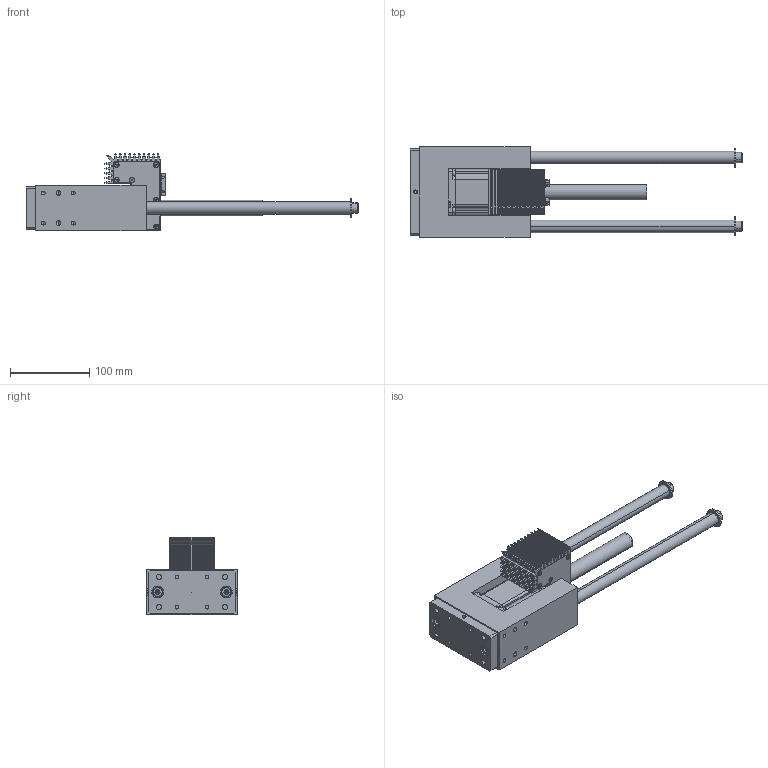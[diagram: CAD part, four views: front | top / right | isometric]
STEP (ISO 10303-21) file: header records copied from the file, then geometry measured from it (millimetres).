
FILE_DESCRIPTION (( 'STEP AP214' ), '1' );
FILE_NAME ('FE23_0004_V00_HUB-250.stp', '2022-03-11T10:46:50', ( '' ), ( '' ), 'SwSTEP 2.0', 'SolidWorks 2020', '' );
FILE_SCHEMA (( 'AUTOMOTIVE_DESIGN' ));
Length unit declared in the file: millimetre
Products named in the file (22): socket head cap screw_din_DIN 912 M4 x 16 --- 16N; WISKA_EVSG_12_7035_10060624; INA-FAG_KH16-PP; FE00_0004_V00; socket set screw cone point_din_DIN 914 - M4 x 5-N; socket thin pilot cap screw_din_DIN 6912 - M8 x 20 --- 13N; spring pin slotted_hd_din_DIN EN 28752 - 2.5 x 16 - St; socket head cap screw_din_DIN 912 M8 x 16 --- 16N; socket set screw cone point_din_DIN 914 - M6 x 12-N; FE23_0004_V00_HUB-250; parallel pin hardened_din_DIN EN 28734 - 3 x 12 - A - St; FE00_0006_V00; FE00_0008_V00_L-130; FE00_0005_V00; Kollmorgen_NEMA23_CTP22NSF3INSS02_mit Gewinde; plain washer large_din_Washer DIN 9021 - 8.4; FE00_0002_V00_HUB-250; FE00_0003_V00_HUB-250; INA_Axial-Rillenkugellager-51104_31_104; FE00_0001_V00; C300_axial_SubD_Ohne Verschlusskappe; FE23_0001_V00_HUB-250
Assembly tree (35 placements, depth 3):
  FE23_0004_V00_HUB-250
    FE23_0001_V00_HUB-250
      FE00_0002_V00_HUB-250
      FE00_0003_V00_HUB-250  x2
      FE00_0001_V00
      FE00_0004_V00
      FE00_0005_V00
      FE00_0006_V00
      INA-FAG_KH16-PP  x4
      socket thin pilot cap screw_din_DIN 6912 - M8 x 20 --- 13N  x2
      INA_Axial-Rillenkugellager-51104_31_104  x2
      parallel pin hardened_din_DIN EN 28734 - 3 x 12 - A - St  x3
      socket set screw cone point_din_DIN 914 - M4 x 5-N
      spring pin slotted_hd_din_DIN EN 28752 - 2.5 x 16 - St
      socket set screw cone point_din_DIN 914 - M6 x 12-N  x2
      plain washer large_din_Washer DIN 9021 - 8.4  x2
      socket head cap screw_din_DIN 912 M8 x 16 --- 16N  x2
    Kollmorgen_NEMA23_CTP22NSF3INSS02_mit Gewinde
    C300_axial_SubD_Ohne Verschlusskappe
    FE00_0008_V00_L-130
    WISKA_EVSG_12_7035_10060624
    socket head cap screw_din_DIN 912 M4 x 16 --- 16N  x4
Bounding box: 420 x 115 x 98.5 mm (x, y, z)
Volume: 1251553.9 mm3; surface area: 332402.2 mm2
Topology: 65 solids, 66 shells, 2509 faces, 6159 edges, 3721 vertices
Faces by surface type: plane 1072, cylinder 742, cone 363, bspline 188, torus 144
Entity records: 81213 total; most frequent: CARTESIAN_POINT 17632, DIRECTION 10271, ORIENTED_EDGE 9740, EDGE_CURVE 4870, AXIS2_PLACEMENT_3D 3769, VERTEX_POINT 3078, VECTOR 2733, LINE 2733
